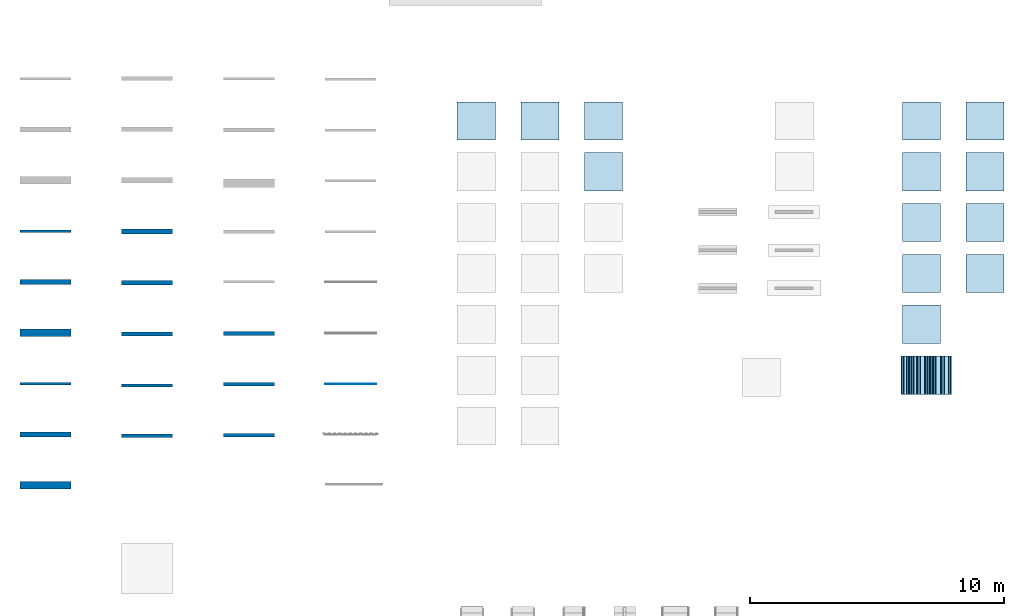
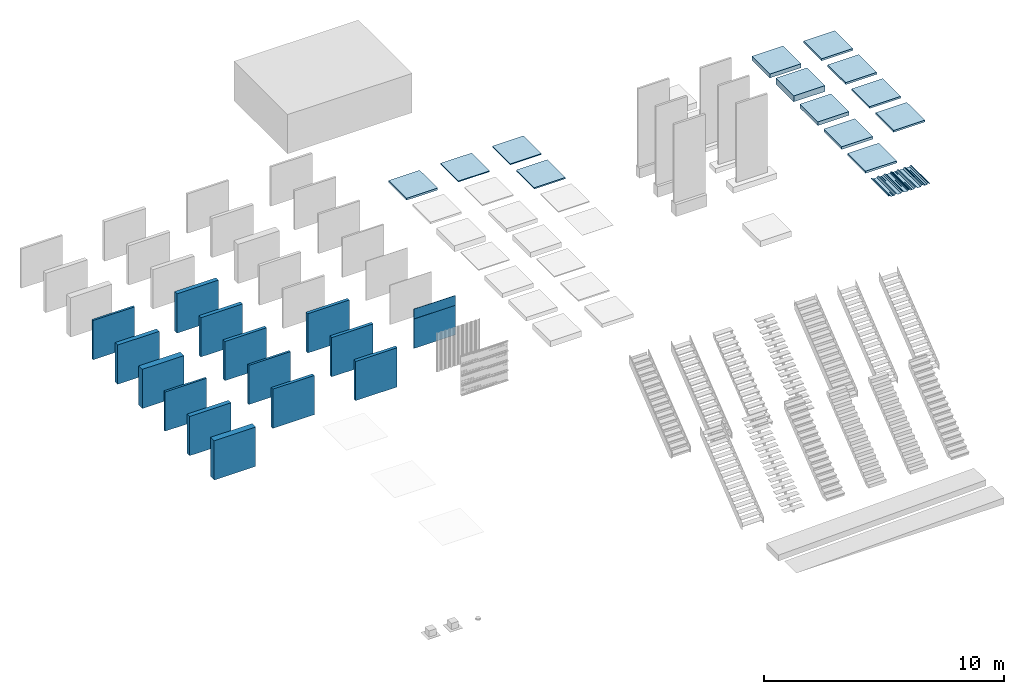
# One storey, part 4 of 14: 16 walls, 13 slabs, 2 plates, 10 elements without a shape of their own.
"""IFC2X3 building model written with IfcOpenShell, lengths in millimetres."""

from ifc_helpers import new_model, entity, si_unit, converted_unit, derived_unit, direction, frame, frame_2d, origin, origin_2d_with_axis, place, context, subcontext, project, spatial, polyline, rectangle, outline, extrude, source, transform, mapped, material, layer, layer_set, layer_usage, type_object, type_shapes, element, aggregate, save


model = new_model("IFC2X3")

# Units and contexts
model_context = context("Model", 3, precision=0.01, world=origin(), true_north=direction((6.12303176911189e-17, 1.0)))
context_of_model = context(None, 3, precision=0.01, world=origin(), true_north=direction((6.12303176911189e-17, 1.0)))
body_context = subcontext(model_context, "Body", "Model", "MODEL_VIEW")
ifc_project = project(units=[si_unit("LENGTHUNIT", "METRE", prefix="MILLI"), si_unit("AREAUNIT", "SQUARE_METRE"), si_unit("VOLUMEUNIT", "CUBIC_METRE"), converted_unit("PLANEANGLEUNIT", "DEGREE", entity("IfcRatioMeasure", 0.0174532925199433), si_unit("PLANEANGLEUNIT", "RADIAN"), dimensions=[0, 0, 0, 0, 0, 0, 0]), si_unit("MASSUNIT", "GRAM", prefix="KILO"), si_unit("TIMEUNIT", "SECOND"), si_unit("FREQUENCYUNIT", "HERTZ"), si_unit("THERMODYNAMICTEMPERATUREUNIT", "KELVIN"), derived_unit("THERMALTRANSMITTANCEUNIT", [(si_unit("MASSUNIT", "GRAM", prefix="KILO"), 1), (si_unit("THERMODYNAMICTEMPERATUREUNIT", "KELVIN"), -1), (si_unit("TIMEUNIT", "SECOND"), -3)]), derived_unit("VOLUMETRICFLOWRATEUNIT", [(si_unit("LENGTHUNIT", "METRE"), 3), (si_unit("TIMEUNIT", "SECOND"), -1)]), si_unit("ELECTRICCURRENTUNIT", "AMPERE"), si_unit("ELECTRICVOLTAGEUNIT", "VOLT"), si_unit("POWERUNIT", "WATT")], contexts=[model_context, context_of_model])

# Site, building, storey
site_placement = place(None, origin())
site = spatial("IfcSite", under=ifc_project, at=site_placement, Name="Surface", CompositionType="ELEMENT")
building_placement = place(site_placement, origin())
building = spatial("IfcBuilding", under=site, at=building_placement, CompositionType="ELEMENT")
storey_placement = place(building_placement, origin())
storey = spatial("IfcBuildingStorey", under=building, at=storey_placement, Name="00_begane grond", CompositionType="ELEMENT", Elevation=0.0)

# Roof, plates
curtain_wall_type = type_object("IfcCurtainWallType", Name="Sloped Glazing:27_CW_SAB58KD_945mm", PredefinedType="NOTDEFINED")
roof_1_placement = place(storey_placement, origin())
roof_1 = element("IfcRoof", 1, at=roof_1_placement, inside=storey, type_object=curtain_wall_type, Name="Sloped Glazing:27_CW_SAB58KD_945mm", ObjectType="Sloped Glazing:27_CW_SAB58KD_945mm:1393", ShapeType="NOTDEFINED")
plate_type_1 = type_object("IfcPlateType", Name="SAB58KD_945", PredefinedType="NOTDEFINED")
shared_shape_1 = source(origin(), body_context, "Body", "SweptSolid", [
    extrude(outline(polyline([(-41.6883369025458, -6.31626557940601), (-38.0537855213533, -6.31626557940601), (-6.51645922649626, 14.7086186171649), (-5.11855484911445, 18.063589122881), (44.5780594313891, 51.1946653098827), (119.78533029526, 31.0648525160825), (162.475119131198, 59.5247117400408), (172.819626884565, 136.689043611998), (222.51559042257, 169.819685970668), (226.150141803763, 169.819685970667), (257.68746809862, 190.844570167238), (259.085372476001, 194.199540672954), (308.781608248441, 227.330364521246), (383.988986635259, 207.200623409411), (416.028687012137, 228.560423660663), (397.342743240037, 286.371121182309), (408.300957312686, 293.676597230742), (418.90416186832, 283.514998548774), (420.28798638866, 284.958961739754), (408.526464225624, 296.23063602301), (394.974288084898, 287.195851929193), (413.660231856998, 229.385154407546), (383.632257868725, 209.366505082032), (308.424879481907, 229.496246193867), (257.472122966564, 195.527741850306), (256.074218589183, 192.17277134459), (225.544590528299, 171.819685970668), (221.910039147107, 171.819685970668), (170.95755361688, 137.851362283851), (160.613045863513, 60.6870304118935), (119.428602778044, 33.2307350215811), (44.2213319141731, 53.3605478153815), (-6.73180435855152, 19.3917903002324), (-8.12970873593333, 16.0368197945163), (-38.6593367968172, -4.31626557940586), (-42.2938881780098, -4.31626557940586), (-93.2479062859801, -38.2856109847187), (-103.592414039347, -115.449942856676), (-144.776857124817, -142.906238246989), (-219.984127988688, -122.776425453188), (-270.937264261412, -156.745182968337), (-272.335168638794, -160.100153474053), (-302.864796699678, -180.453238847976), (-306.49934808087, -180.453238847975), (-357.44939838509, -214.419939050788), (-368.151786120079, -294.22655842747), (-407.873068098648, -320.707413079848), (-423.86478432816, -316.569685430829), (-432.461053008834, -311.156883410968), (-433.526726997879, -312.849319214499), (-424.667084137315, -318.427959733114), (-407.507999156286, -322.867734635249), (-366.289758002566, -295.388907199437), (-355.587370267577, -215.582287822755), (-305.893796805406, -182.453238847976), (-302.259245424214, -182.453238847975), (-270.721919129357, -161.428354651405), (-269.324014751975, -158.073384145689), (-219.627400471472, -124.942307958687), (-144.420129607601, -145.072120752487), (-101.730340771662, -116.612261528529), (-91.3858330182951, -39.4479296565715), (-41.6883369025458, -6.31626557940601)])), frame((534.253619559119, 42.597426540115, 0.0), z_axis=(0.0, 0.0, 1.0), x_axis=(0.832050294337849, -0.55470019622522, 0.0)), (0.0, 0.0, 1.0), 1500.0),
])
type_shapes(plate_type_1, [shared_shape_1])
plate_1_placement = place(roof_1_placement, frame((34647.8084880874, -13415.0, 64.0), z_axis=(0.0, 1.0, 0.0), x_axis=(1.0, 0.0, 0.0)))
plate_1 = element("IfcPlate", 2, at=plate_1_placement, type_object=plate_type_1, Name="27_CWP_SAB58KD_945:SAB58KD_945", ObjectType="SAB58KD_945", context=body_context, shape_type="MappedRepresentation", body=[
    mapped(shared_shape_1, transform((0.0, 0.0, 0.0), scale=1.0)),
])
plate_type_2 = type_object("IfcPlateType", Name="SAB58KD_945", PredefinedType="NOTDEFINED")
shared_shape_2 = source(origin(), body_context, "Body", "SweptSolid", [
    extrude(outline(polyline([(-41.688336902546, -6.31626557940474), (-38.0537855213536, -6.31626557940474), (-6.51645922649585, 14.7086186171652), (-5.11855484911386, 18.0635891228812), (44.5780594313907, 51.1946653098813), (119.785330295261, 31.0648525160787), (162.4751191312, 59.5247117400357), (172.819626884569, 136.689043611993), (222.515590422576, 169.819685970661), (226.150141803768, 169.81968597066), (257.687468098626, 190.84457016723), (259.085372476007, 194.199540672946), (308.781608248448, 227.330364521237), (383.988986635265, 207.200623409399), (416.028687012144, 228.56042366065), (397.342743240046, 286.371121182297), (408.300957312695, 293.676597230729), (418.904161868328, 283.514998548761), (420.287986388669, 284.958961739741), (408.526464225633, 296.230636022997), (394.974288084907, 287.19585192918), (413.660231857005, 229.385154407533), (383.632257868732, 209.36650508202), (308.424879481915, 229.496246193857), (257.47212296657, 195.527741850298), (256.074218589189, 192.172771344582), (225.544590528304, 171.81968597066), (221.910039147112, 171.819685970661), (170.957553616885, 137.851362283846), (160.613045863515, 60.6870304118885), (119.428602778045, 33.2307350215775), (44.2213319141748, 53.3605478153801), (-6.73180435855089, 19.3917903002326), (-8.1297087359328, 16.0368197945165), (-38.6593367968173, -4.31626557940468), (-42.2938881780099, -4.31626557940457), (-93.2479062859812, -38.2856109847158), (-103.592414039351, -115.449942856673), (-144.776857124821, -142.906238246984), (-219.984127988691, -122.776425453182), (-270.937264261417, -156.745182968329), (-272.335168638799, -160.100153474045), (-302.864796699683, -180.453238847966), (-306.499348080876, -180.453238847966), (-357.449398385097, -214.419939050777), (-368.151786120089, -294.226558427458), (-407.873068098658, -320.707413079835), (-423.86478432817, -316.569685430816), (-432.461053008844, -311.156883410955), (-433.526726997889, -312.849319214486), (-424.667084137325, -318.427959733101), (-407.507999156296, -322.867734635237), (-366.289758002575, -295.388907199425), (-355.587370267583, -215.582287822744), (-305.893796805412, -182.453238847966), (-302.259245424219, -182.453238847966), (-270.721919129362, -161.428354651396), (-269.32401475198, -158.07338414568), (-219.627400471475, -124.94230795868), (-144.420129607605, -145.072120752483), (-101.730340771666, -116.612261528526), (-91.3858330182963, -39.4479296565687), (-41.688336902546, -6.31626557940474)])), frame((534.253619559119, 42.597426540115, 0.0), z_axis=(0.0, 0.0, 1.0), x_axis=(0.832050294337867, -0.554700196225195, 0.0)), (0.0, 0.0, 1.0), 1500.0),
])
type_shapes(plate_type_2, [shared_shape_2])
plate_2_placement = place(roof_1_placement, frame((35592.8084880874, -13415.0, 64.0), z_axis=(0.0, 1.0, 0.0), x_axis=(1.0, 0.0, 0.0)))
plate_2 = element("IfcPlate", 3, at=plate_2_placement, type_object=plate_type_2, Name="27_CWP_SAB58KD_945:SAB58KD_945", ObjectType="SAB58KD_945", context=body_context, shape_type="MappedRepresentation", body=[
    mapped(shared_shape_2, transform((0.0, 0.0, 0.0), scale=1.0)),
])
aggregate(roof_1, [plate_1, plate_2])

# Slabs
ifc_material_1 = material(Name="Default")
ifc_layer_1 = layer(ifc_material_1, 100.0)
ifc_layer_set_1 = layer_set([ifc_layer_1], Name="Floor:13_FL_generiek_100")
ifc_layer_usage_1 = layer_usage(ifc_layer_set_1, "AXIS3", "POSITIVE", 0.0)
slab_1_placement = place(storey_placement, origin())
element("IfcSlab", 4, at=slab_1_placement, inside=storey, material=ifc_layer_usage_1, Name="Floor:13_FL_generiek_100", ObjectType="Floor:13_FL_generiek_100", PredefinedType="FLOOR", context=body_context, shape_type="SweptSolid", body=[
    extrude(rectangle(XDim=1500.0, YDim=1500.0, at=frame_2d((-1.13686837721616e-13, 0.0), x_axis=(1.0, 0.0))), frame((17943.3473849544, -2665.0, 0.0), z_axis=(0.0, 0.0, -1.0), x_axis=(0.0, 1.0, 0.0)), (0.0, 0.0, 1.0), 100.0),
])
ifc_material_2 = material(Name="28_beton_prefab_C45_55")
ifc_layer_2 = layer(ifc_material_2, 50.0)
ifc_layer_set_2 = layer_set([ifc_layer_2], Name="Floor:23_FL_breedplaat_50")
ifc_layer_usage_2 = layer_usage(ifc_layer_set_2, "AXIS3", "POSITIVE", 0.0)
slab_2_placement = place(storey_placement, origin())
element("IfcSlab", 5, at=slab_2_placement, inside=storey, material=ifc_layer_usage_2, Name="Floor:23_FL_breedplaat_50", ObjectType="Floor:23_FL_breedplaat_50", PredefinedType="FLOOR", context=body_context, shape_type="SweptSolid", body=[
    extrude(rectangle(XDim=1500.0, YDim=1500.00000000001, at=frame_2d((-1.13686837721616e-13, 0.0), x_axis=(1.0, 0.0))), frame((20443.3473849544, -2665.0, 0.0), z_axis=(0.0, 0.0, -1.0), x_axis=(0.0, 1.0, 0.0)), (0.0, 0.0, 1.0), 50.0),
])
ifc_material_3 = material(Name="43_dekvloer_zandcement")
ifc_layer_3 = layer(ifc_material_3, 50.0)
ifc_layer_set_3 = layer_set([ifc_layer_3], Name="Floor:43_FL_cementdekvloer_50")
ifc_layer_usage_3 = layer_usage(ifc_layer_set_3, "AXIS3", "POSITIVE", 0.0)
slab_3_placement = place(storey_placement, origin())
element("IfcSlab", 6, at=slab_3_placement, inside=storey, material=ifc_layer_usage_3, Name="Floor:43_FL_cementdekvloer_50", ObjectType="Floor:43_FL_cementdekvloer_50", PredefinedType="FLOOR", context=body_context, shape_type="SweptSolid", body=[
    extrude(rectangle(XDim=1500.0, YDim=1500.00000000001, at=frame_2d((1.70530256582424e-13, 0.0), x_axis=(1.0, 0.0))), frame((22943.3473849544, -2665.0, 0.0), z_axis=(0.0, 0.0, -1.0), x_axis=(0.0, 1.0, 0.0)), (0.0, 0.0, 1.0), 50.0),
])
ifc_layer_4 = layer(ifc_material_3, 70.0)
ifc_layer_set_4 = layer_set([ifc_layer_4], Name="Floor:43_FL_cementdekvloer_70")
ifc_layer_usage_4 = layer_usage(ifc_layer_set_4, "AXIS3", "POSITIVE", 0.0)
slab_4_placement = place(storey_placement, origin())
element("IfcSlab", 7, at=slab_4_placement, inside=storey, material=ifc_layer_usage_4, Name="Floor:43_FL_cementdekvloer_70", ObjectType="Floor:43_FL_cementdekvloer_70", PredefinedType="FLOOR", context=body_context, shape_type="SweptSolid", body=[
    extrude(rectangle(XDim=1500.0, YDim=1500.00000000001, at=origin_2d_with_axis()), frame((22943.3473849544, -4665.0, 0.0), z_axis=(0.0, 0.0, -1.0), x_axis=(0.0, 1.0, 0.0)), (0.0, 0.0, 1.0), 70.0),
])

# Roof, slab
roof_2_placement = place(storey_placement, frame((34693.3473849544, -3415.0, 0.0)))
roof_2 = element("IfcRoof", 8, at=roof_2_placement, inside=storey, Name="Basic Roof:27_RO_generiek_200", ObjectType="Basic Roof:27_RO_generiek_200", ShapeType="NOTDEFINED")
ifc_layer_5 = layer(ifc_material_1, 200.0)
ifc_layer_set_5 = layer_set([ifc_layer_5], Name="Basic Roof:27_RO_generiek_200")
slab_5_placement = place(roof_2_placement, origin())
slab_5 = element("IfcSlab", 9, at=slab_5_placement, material=ifc_layer_set_5, Name="Basic Roof:27_RO_generiek_200", ObjectType="Basic Roof:27_RO_generiek_200", PredefinedType="ROOF", context=body_context, shape_type="SweptSolid", body=[
    extrude(rectangle(XDim=1500.0, YDim=1500.0, at=frame_2d((-2.1600499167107e-12, 0.0), x_axis=(1.0, 0.0))), frame((750.0, 750.0, 0.0)), (0.0, 0.0, 1.0), 200.0),
])
aggregate(roof_2, [slab_5])

roof_3_placement = place(storey_placement, frame((34693.3473849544, -5415.0, 0.0)))
roof_3 = element("IfcRoof", 10, at=roof_3_placement, inside=storey, Name="Basic Roof:27_RO_generiek_300", ObjectType="Basic Roof:27_RO_generiek_300", ShapeType="NOTDEFINED")
ifc_layer_6 = layer(ifc_material_1, 300.0)
ifc_layer_set_6 = layer_set([ifc_layer_6], Name="Basic Roof:27_RO_generiek_300")
slab_6_placement = place(roof_3_placement, origin())
slab_6 = element("IfcSlab", 11, at=slab_6_placement, material=ifc_layer_set_6, Name="Basic Roof:27_RO_generiek_300", ObjectType="Basic Roof:27_RO_generiek_300", PredefinedType="ROOF", context=body_context, shape_type="SweptSolid", body=[
    extrude(rectangle(XDim=1500.0, YDim=1500.0, at=frame_2d((2.1600499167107e-12, 0.0), x_axis=(1.0, 0.0))), frame((750.0, 750.0, 0.0)), (0.0, 0.0, 1.0), 300.0),
])
aggregate(roof_3, [slab_6])

roof_4_placement = place(storey_placement, frame((37193.3473849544, -3415.0, 0.0)))
roof_4 = element("IfcRoof", 12, at=roof_4_placement, inside=storey, Name="Basic Roof:47_RO_isolatie_PIR_bitumen_82_80-2", ObjectType="Basic Roof:47_RO_isolatie_PIR_bitumen_82_80-2", ShapeType="NOTDEFINED")
ifc_material_4 = material(Name="47_bitumen")
ifc_layer_7 = layer(ifc_material_4, 2.0)
ifc_material_5 = material(Name="20_isolatie_PIR")
ifc_layer_8 = layer(ifc_material_5, 100.0)
ifc_layer_set_7 = layer_set([ifc_layer_7, ifc_layer_8], Name="Basic Roof:47_RO_isolatie_PIR_bitumen_82_80-2")
slab_7_placement = place(roof_4_placement, origin())
slab_7 = element("IfcSlab", 13, at=slab_7_placement, material=ifc_layer_set_7, Name="Basic Roof:47_RO_isolatie_PIR_bitumen_82_80-2", ObjectType="Basic Roof:47_RO_isolatie_PIR_bitumen_82_80-2", PredefinedType="ROOF", context=body_context, shape_type="SweptSolid", body=[
    extrude(rectangle(XDim=1500.0, YDim=1500.0, at=frame_2d((2.1600499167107e-12, 0.0), x_axis=(1.0, 0.0))), frame((750.0, 750.0, 0.0)), (0.0, 0.0, 1.0), 102.0),
])
aggregate(roof_4, [slab_7])

roof_5_placement = place(storey_placement, frame((37193.3473849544, -5415.0, 0.0)))
roof_5 = element("IfcRoof", 14, at=roof_5_placement, inside=storey, Name="Basic Roof:47_RO_isolatie_EPS_bitumen_102_100-2", ObjectType="Basic Roof:47_RO_isolatie_EPS_bitumen_102_100-2", ShapeType="NOTDEFINED")
ifc_layer_9 = layer(ifc_material_4, 2.0)
ifc_material_6 = material(Name="20_isolatie_EPS")
ifc_layer_10 = layer(ifc_material_6, 100.0)
ifc_layer_set_8 = layer_set([ifc_layer_9, ifc_layer_10], Name="Basic Roof:47_RO_isolatie_EPS_bitumen_102_100-2")
slab_8_placement = place(roof_5_placement, origin())
slab_8 = element("IfcSlab", 15, at=slab_8_placement, material=ifc_layer_set_8, Name="Basic Roof:47_RO_isolatie_EPS_bitumen_102_100-2", ObjectType="Basic Roof:47_RO_isolatie_EPS_bitumen_102_100-2", PredefinedType="ROOF", context=body_context, shape_type="SweptSolid", body=[
    extrude(rectangle(XDim=1500.0, YDim=1500.0, at=frame_2d((-2.1600499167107e-12, 0.0), x_axis=(1.0, 0.0))), frame((750.0, 750.0, 0.0)), (0.0, 0.0, 1.0), 102.0),
])
aggregate(roof_5, [slab_8])

roof_6_placement = place(storey_placement, frame((34693.3473849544, -7415.0, 0.0)))
roof_6 = element("IfcRoof", 16, at=roof_6_placement, inside=storey, Name="Basic Roof:27_RO_hout_underlayment_189_171-18", ObjectType="Basic Roof:27_RO_hout_underlayment_189_171-18", ShapeType="NOTDEFINED")
ifc_material_7 = material(Name="27_beplating_underlayment")
ifc_layer_11 = layer(ifc_material_7, 18.0)
ifc_material_8 = material(Name="27_houten_balklaag_geventileerd")
ifc_layer_12 = layer(ifc_material_8, 171.0)
ifc_layer_set_9 = layer_set([ifc_layer_11, ifc_layer_12], Name="Basic Roof:27_RO_hout_underlayment_189_171-18")
slab_9_placement = place(roof_6_placement, origin())
slab_9 = element("IfcSlab", 17, at=slab_9_placement, material=ifc_layer_set_9, Name="Basic Roof:27_RO_hout_underlayment_189_171-18", ObjectType="Basic Roof:27_RO_hout_underlayment_189_171-18", PredefinedType="ROOF", context=body_context, shape_type="SweptSolid", body=[
    extrude(rectangle(XDim=1500.0, YDim=1500.0, at=frame_2d((-2.1600499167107e-12, 0.0), x_axis=(1.0, 0.0))), frame((750.0, 750.0, 0.0)), (0.0, 0.0, 1.0), 189.0),
])
aggregate(roof_6, [slab_9])

roof_7_placement = place(storey_placement, frame((34693.3473849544, -9415.0, 0.0)))
roof_7 = element("IfcRoof", 18, at=roof_7_placement, inside=storey, Name="Basic Roof:27_RO_dakplaat_enkelschalig_PIR_135_33-90-12", ObjectType="Basic Roof:27_RO_dakplaat_enkelschalig_PIR_135_33-90-12", ShapeType="NOTDEFINED")
ifc_material_9 = material(Name="00_lucht_spouw_dak_geventileerd")
ifc_layer_13 = layer(ifc_material_9, 33.0)
ifc_layer_14 = layer(ifc_material_5, 90.0)
ifc_material_10 = material(Name="20_beplating_MDF")
ifc_layer_15 = layer(ifc_material_10, 12.0)
ifc_layer_set_10 = layer_set([ifc_layer_13, ifc_layer_14, ifc_layer_15], Name="Basic Roof:27_RO_dakplaat_enkelschalig_PIR_135_33-90-12")
slab_10_placement = place(roof_7_placement, origin())
slab_10 = element("IfcSlab", 19, at=slab_10_placement, material=ifc_layer_set_10, Name="Basic Roof:27_RO_dakplaat_enkelschalig_PIR_135_33-90-12", ObjectType="Basic Roof:27_RO_dakplaat_enkelschalig_PIR_135_33-90-12", PredefinedType="ROOF", context=body_context, shape_type="SweptSolid", body=[
    extrude(rectangle(XDim=1500.0, YDim=1500.0, at=frame_2d((2.1600499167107e-12, 0.0), x_axis=(1.0, 0.0))), frame((750.0, 750.0, 0.0)), (0.0, 0.0, 1.0), 135.0),
])
aggregate(roof_7, [slab_10])

roof_8_placement = place(storey_placement, frame((37193.3473849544, -7415.0, 0.0)))
roof_8 = element("IfcRoof", 20, at=roof_8_placement, inside=storey, Name="Basic Roof:47_RO_dakpan_grijs_300x300", ObjectType="Basic Roof:47_RO_dakpan_grijs_300x300", ShapeType="NOTDEFINED")
ifc_material_11 = material(Name="47_dakpan_grijs")
ifc_layer_16 = layer(ifc_material_11, 70.0)
ifc_material_12 = material(Name="47_panlat_geventileerd")
ifc_layer_17 = layer(ifc_material_12, 22.0)
ifc_layer_set_11 = layer_set([ifc_layer_16, ifc_layer_17], Name="Basic Roof:47_RO_dakpan_grijs_300x300")
slab_11_placement = place(roof_8_placement, origin())
slab_11 = element("IfcSlab", 21, at=slab_11_placement, material=ifc_layer_set_11, Name="Basic Roof:47_RO_dakpan_grijs_300x300", ObjectType="Basic Roof:47_RO_dakpan_grijs_300x300", PredefinedType="ROOF", context=body_context, shape_type="SweptSolid", body=[
    extrude(rectangle(XDim=1500.0, YDim=1500.0, at=frame_2d((2.1600499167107e-12, 5.11590769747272e-13), x_axis=(1.0, 0.0))), frame((750.0, 750.0, 0.0)), (0.0, 0.0, 1.0), 92.0),
])
aggregate(roof_8, [slab_11])

roof_9_placement = place(storey_placement, frame((37193.3473849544, -9415.0, 0.0)))
roof_9 = element("IfcRoof", 22, at=roof_9_placement, inside=storey, Name="Basic Roof:47_RO_dakpan_rood_300x300", ObjectType="Basic Roof:47_RO_dakpan_rood_300x300", ShapeType="NOTDEFINED")
ifc_material_13 = material(Name="47_dakpan_rood")
ifc_layer_18 = layer(ifc_material_13, 70.0)
ifc_layer_19 = layer(ifc_material_12, 22.0)
ifc_layer_set_12 = layer_set([ifc_layer_18, ifc_layer_19], Name="Basic Roof:47_RO_dakpan_rood_300x300")
slab_12_placement = place(roof_9_placement, origin())
slab_12 = element("IfcSlab", 23, at=slab_12_placement, material=ifc_layer_set_12, Name="Basic Roof:47_RO_dakpan_rood_300x300", ObjectType="Basic Roof:47_RO_dakpan_rood_300x300", PredefinedType="ROOF", context=body_context, shape_type="SweptSolid", body=[
    extrude(rectangle(XDim=1500.0, YDim=1500.0, at=frame_2d((-2.1600499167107e-12, 5.11590769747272e-13), x_axis=(1.0, 0.0))), frame((750.0, 750.0, 0.0)), (0.0, 0.0, 1.0), 92.0),
])
aggregate(roof_9, [slab_12])

roof_10_placement = place(storey_placement, frame((34693.3473849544, -11415.0, 0.0)))
roof_10 = element("IfcRoof", 24, at=roof_10_placement, inside=storey, Name="Basic Roof:27_RO_dakplaat_sandwich_PIR_106_20-3-80-3", ObjectType="Basic Roof:27_RO_dakplaat_sandwich_PIR_106_20-3-80-3", ShapeType="NOTDEFINED")
ifc_material_14 = material(Name="27_tengels_geventileerd")
ifc_layer_20 = layer(ifc_material_14, 20.0)
ifc_layer_21 = layer(ifc_material_10, 3.0)
ifc_layer_22 = layer(ifc_material_5, 80.0)
ifc_layer_23 = layer(ifc_material_10, 3.0)
ifc_layer_set_13 = layer_set([ifc_layer_20, ifc_layer_21, ifc_layer_22, ifc_layer_23], Name="Basic Roof:27_RO_dakplaat_sandwich_PIR_106_20-3-80-3")
slab_13_placement = place(roof_10_placement, origin())
slab_13 = element("IfcSlab", 25, at=slab_13_placement, material=ifc_layer_set_13, Name="Basic Roof:27_RO_dakplaat_sandwich_PIR_106_20-3-80-3", ObjectType="Basic Roof:27_RO_dakplaat_sandwich_PIR_106_20-3-80-3", PredefinedType="ROOF", context=body_context, shape_type="SweptSolid", body=[
    extrude(rectangle(XDim=1500.0, YDim=1500.0, at=frame_2d((-2.1600499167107e-12, 0.0), x_axis=(1.0, 0.0))), frame((750.0, 750.0, 0.0)), (0.0, 0.0, 1.0), 106.0),
])
aggregate(roof_10, [slab_13])

# Walls
ifc_material_15 = material(Name="20_baksteen_wf_210x100x50_10mm_voeg_halfsteens_rood_genuanceerd")
ifc_layer_24 = layer(ifc_material_15, 100.0)
ifc_layer_set_14 = layer_set([ifc_layer_24], Name="Basic Wall:21_WA_mw_100")
ifc_layer_usage_5 = layer_usage(ifc_layer_set_14, "AXIS2", "NEGATIVE", 50.0)
wall_type_1 = type_object("IfcWallType", Name="Basic Wall:21_WA_mw_100", PredefinedType="STANDARD", material=ifc_layer_set_14)
wall_1_placement = place(storey_placement, frame((0.0, -13000.0, 0.0)))
element("IfcWallStandardCase", 26, at=wall_1_placement, inside=storey, type_object=wall_type_1, material=ifc_layer_usage_5, Name="Basic Wall:21_WA_mw_100", ObjectType="Basic Wall:21_WA_mw_100", context=body_context, shape_type="SweptSolid", body=[
    extrude(rectangle(XDim=2000.0, YDim=99.9999999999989, at=frame_2d((1000.0, 5.32907051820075e-13), x_axis=(-1.0, 0.0))), origin(), (0.0, 0.0, 1.0), 2000.0),
])
ifc_layer_25 = layer(ifc_material_15, 210.0)
ifc_layer_set_15 = layer_set([ifc_layer_25], Name="Basic Wall:21_WA_mw_210")
ifc_layer_usage_6 = layer_usage(ifc_layer_set_15, "AXIS2", "NEGATIVE", 105.0)
wall_type_2 = type_object("IfcWallType", Name="Basic Wall:21_WA_mw_210", PredefinedType="STANDARD", material=ifc_layer_set_15)
wall_2_placement = place(storey_placement, frame((0.0, -15000.0, 0.0)))
element("IfcWallStandardCase", 27, at=wall_2_placement, inside=storey, type_object=wall_type_2, material=ifc_layer_usage_6, Name="Basic Wall:21_WA_mw_210", ObjectType="Basic Wall:21_WA_mw_210", context=body_context, shape_type="SweptSolid", body=[
    extrude(rectangle(XDim=2000.0, YDim=210.0, at=frame_2d((1000.0, 5.32907051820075e-13), x_axis=(-1.0, 0.0))), origin(), (0.0, 0.0, 1.0), 2000.0),
])
ifc_layer_26 = layer(ifc_material_15, 100.0)
ifc_material_16 = material(Name="00_lucht_spouw_muur_geventileerd")
ifc_layer_27 = layer(ifc_material_16, 100.0)
ifc_layer_28 = layer(ifc_material_15, 100.0)
ifc_layer_set_16 = layer_set([ifc_layer_26, ifc_layer_27, ifc_layer_28], Name="Basic Wall:21_WA_mw_spouw_mw_300_100-100-100")
ifc_layer_usage_7 = layer_usage(ifc_layer_set_16, "AXIS2", "NEGATIVE", 150.0)
wall_type_3 = type_object("IfcWallType", Name="Basic Wall:21_WA_mw_spouw_mw_300_100-100-100", PredefinedType="STANDARD", material=ifc_layer_set_16)
wall_3_placement = place(storey_placement, frame((0.0, -17000.0, 0.0)))
element("IfcWallStandardCase", 28, at=wall_3_placement, inside=storey, type_object=wall_type_3, material=ifc_layer_usage_7, Name="Basic Wall:21_WA_mw_spouw_mw_300_100-100-100", ObjectType="Basic Wall:21_WA_mw_spouw_mw_300_100-100-100", context=body_context, shape_type="SweptSolid", body=[
    extrude(rectangle(XDim=2000.0, YDim=300.000000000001, at=frame_2d((1000.0, 5.40012479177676e-13), x_axis=(-1.0, 0.0))), origin(), (0.0, 0.0, 1.0), 2000.0),
])
ifc_material_17 = material(Name="00_baksteen_bestaand")
ifc_layer_29 = layer(ifc_material_17, 100.0)
ifc_layer_set_17 = layer_set([ifc_layer_29], Name="Basic Wall:21_WA_mw-bestaand_100")
ifc_layer_usage_8 = layer_usage(ifc_layer_set_17, "AXIS2", "NEGATIVE", 50.0)
wall_type_4 = type_object("IfcWallType", Name="Basic Wall:21_WA_mw-bestaand_100", PredefinedType="STANDARD", material=ifc_layer_set_17)
wall_4_placement = place(storey_placement, frame((0.0, -7000.0, 0.0)))
element("IfcWallStandardCase", 29, at=wall_4_placement, inside=storey, type_object=wall_type_4, material=ifc_layer_usage_8, Name="Basic Wall:21_WA_mw-bestaand_100", ObjectType="Basic Wall:21_WA_mw-bestaand_100", context=body_context, shape_type="SweptSolid", body=[
    extrude(rectangle(XDim=2000.0, YDim=99.9999999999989, at=frame_2d((1000.0, -7.105427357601e-15), x_axis=(-1.0, 0.0))), origin(), (0.0, 0.0, 1.0), 2000.0),
])
ifc_layer_30 = layer(ifc_material_17, 210.0)
ifc_layer_set_18 = layer_set([ifc_layer_30], Name="Basic Wall:21_WA_mw_bestaand_210")
ifc_layer_usage_9 = layer_usage(ifc_layer_set_18, "AXIS2", "NEGATIVE", 105.0)
wall_type_5 = type_object("IfcWallType", Name="Basic Wall:21_WA_mw_bestaand_210", PredefinedType="STANDARD", material=ifc_layer_set_18)
wall_5_placement = place(storey_placement, frame((0.0, -9000.0, 0.0)))
element("IfcWallStandardCase", 30, at=wall_5_placement, inside=storey, type_object=wall_type_5, material=ifc_layer_usage_9, Name="Basic Wall:21_WA_mw_bestaand_210", ObjectType="Basic Wall:21_WA_mw_bestaand_210", context=body_context, shape_type="SweptSolid", body=[
    extrude(rectangle(XDim=2000.0, YDim=210.0, at=frame_2d((1000.0, -1.4210854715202e-14), x_axis=(-1.0, 0.0))), origin(), (0.0, 0.0, 1.0), 2000.0),
])
ifc_layer_31 = layer(ifc_material_17, 100.0)
ifc_layer_32 = layer(ifc_material_16, 100.0)
ifc_layer_33 = layer(ifc_material_17, 100.0)
ifc_layer_set_19 = layer_set([ifc_layer_31, ifc_layer_32, ifc_layer_33], Name="Basic Wall:21_WA_mw-bestaand_spouw_mw-bestaand_300_100-100-100")
ifc_layer_usage_10 = layer_usage(ifc_layer_set_19, "AXIS2", "NEGATIVE", 150.0)
wall_type_6 = type_object("IfcWallType", Name="Basic Wall:21_WA_mw-bestaand_spouw_mw-bestaand_300_100-100-100", PredefinedType="STANDARD", material=ifc_layer_set_19)
wall_6_placement = place(storey_placement, frame((0.0, -11000.0, 0.0)))
element("IfcWallStandardCase", 31, at=wall_6_placement, inside=storey, type_object=wall_type_6, material=ifc_layer_usage_10, Name="Basic Wall:21_WA_mw-bestaand_spouw_mw-bestaand_300_100-100-100", ObjectType="Basic Wall:21_WA_mw-bestaand_spouw_mw-bestaand_300_100-100-100", context=body_context, shape_type="SweptSolid", body=[
    extrude(rectangle(XDim=2000.0, YDim=300.000000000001, at=frame_2d((1000.0, 5.40012479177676e-13), x_axis=(-1.0, 0.0))), origin(), (0.0, 0.0, 1.0), 2000.0),
])
ifc_layer_34 = layer(ifc_material_15, 100.0)
ifc_layer_35 = layer(ifc_material_16, 30.0)
ifc_material_18 = material(Name="20_isolatie_steenwol")
ifc_layer_36 = layer(ifc_material_18, 70.0)
ifc_layer_set_20 = layer_set([ifc_layer_34, ifc_layer_35, ifc_layer_36], Name="Basic Wall:21_WA_mw_spouw_iso-sw_200_100-30-70")
ifc_layer_usage_11 = layer_usage(ifc_layer_set_20, "AXIS2", "NEGATIVE", 100.0)
wall_type_7 = type_object("IfcWallType", Name="Basic Wall:21_WA_mw_spouw_iso-sw_200_100-30-70", PredefinedType="STANDARD", material=ifc_layer_set_20)
wall_7_placement = place(storey_placement, frame((4000.0, -7020.0, 0.0)))
element("IfcWallStandardCase", 32, at=wall_7_placement, inside=storey, type_object=wall_type_7, material=ifc_layer_usage_11, Name="Basic Wall:21_WA_mw_spouw_iso-sw_200_100-30-70", ObjectType="Basic Wall:21_WA_mw_spouw_iso-sw_200_100-30-70", context=body_context, shape_type="SweptSolid", body=[
    extrude(rectangle(XDim=2000.0, YDim=200.0, at=frame_2d((1000.0, -7.105427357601e-15), x_axis=(-1.0, 0.0))), origin(), (0.0, 0.0, 1.0), 2000.0),
])
ifc_material_19 = material(Name="41_hout_hardhout_geveldelen_donkerblauw_horizontaal")
ifc_layer_37 = layer(ifc_material_19, 20.0)
ifc_material_20 = material(Name="40_regelwerk_geventileerd")
ifc_layer_38 = layer(ifc_material_20, 30.0)
ifc_layer_39 = layer(ifc_material_20, 10.0)
ifc_layer_40 = layer(ifc_material_18, 120.0)
ifc_layer_set_21 = layer_set([ifc_layer_37, ifc_layer_38, ifc_layer_39, ifc_layer_40], Name="Basic Wall:21_WA_hout-wrc-hor_rachel_tengel_iso-sw_180_20-30-10-120")
ifc_layer_usage_12 = layer_usage(ifc_layer_set_21, "AXIS2", "NEGATIVE", 90.0)
wall_type_8 = type_object("IfcWallType", Name="Basic Wall:21_WA_hout-wrc-hor_rachel_tengel_iso-sw_180_20-30-10-120", PredefinedType="STANDARD", material=ifc_layer_set_21)
wall_8_placement = place(storey_placement, frame((4000.0, -9030.0, 0.0)))
element("IfcWallStandardCase", 33, at=wall_8_placement, inside=storey, type_object=wall_type_8, material=ifc_layer_usage_12, Name="Basic Wall:21_WA_hout-wrc-hor_rachel_tengel_iso-sw_180_20-30-10-120", ObjectType="Basic Wall:21_WA_hout-wrc-hor_rachel_tengel_iso-sw_180_20-30-10-120", context=body_context, shape_type="SweptSolid", body=[
    extrude(rectangle(XDim=2000.0, YDim=180.0, at=frame_2d((1000.0, -7.105427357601e-15), x_axis=(-1.0, 0.0))), origin(), (0.0, 0.0, 1.0), 2000.0),
])
ifc_material_21 = material(Name="40_stucwerk_exterieur_grof_wit")
ifc_layer_41 = layer(ifc_material_21, 30.0)
ifc_layer_42 = layer(ifc_material_6, 120.0)
ifc_layer_set_22 = layer_set([ifc_layer_41, ifc_layer_42], Name="Basic Wall:21_WA_stucwerk_iso-eps_150_30-120")
ifc_layer_usage_13 = layer_usage(ifc_layer_set_22, "AXIS2", "NEGATIVE", 75.0)
wall_type_9 = type_object("IfcWallType", Name="Basic Wall:21_WA_stucwerk_iso-eps_150_30-120", PredefinedType="STANDARD", material=ifc_layer_set_22)
wall_9_placement = place(storey_placement, frame((4000.0, -11045.0, 0.0)))
element("IfcWallStandardCase", 34, at=wall_9_placement, inside=storey, type_object=wall_type_9, material=ifc_layer_usage_13, Name="Basic Wall:21_WA_stucwerk_iso-eps_150_30-120", ObjectType="Basic Wall:21_WA_stucwerk_iso-eps_150_30-120", context=body_context, shape_type="SweptSolid", body=[
    extrude(rectangle(XDim=2000.0, YDim=150.000000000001, at=frame_2d((1000.0, 5.32907051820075e-13), x_axis=(-1.0, 0.0))), origin(), (0.0, 0.0, 1.0), 2000.0),
])
ifc_material_22 = material(Name="41_staal_geanodizeerd_wit")
ifc_layer_43 = layer(ifc_material_22, 1.6)
ifc_layer_44 = layer(ifc_material_5, 96.8)
ifc_layer_45 = layer(ifc_material_22, 1.6)
ifc_layer_set_23 = layer_set([ifc_layer_43, ifc_layer_44, ifc_layer_45], Name="Basic Wall:21_WA_sandwichpaneel_100x1000")
ifc_layer_usage_14 = layer_usage(ifc_layer_set_23, "AXIS2", "NEGATIVE", 50.0)
wall_type_10 = type_object("IfcWallType", Name="Basic Wall:21_WA_sandwichpaneel_100x1000", PredefinedType="STANDARD", material=ifc_layer_set_23)
wall_10_placement = place(storey_placement, frame((4000.0, -13070.0, 0.0)))
element("IfcWallStandardCase", 35, at=wall_10_placement, inside=storey, type_object=wall_type_10, material=ifc_layer_usage_14, Name="Basic Wall:21_WA_sandwichpaneel_100x1000", ObjectType="Basic Wall:21_WA_sandwichpaneel_100x1000", context=body_context, shape_type="SweptSolid", body=[
    extrude(rectangle(XDim=2000.0, YDim=99.9999999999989, at=frame_2d((1000.0, 5.32907051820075e-13), x_axis=(-1.0, 0.0))), origin(), (0.0, 0.0, 1.0), 2000.0),
])
ifc_layer_46 = layer(ifc_material_2, 150.0)
ifc_layer_set_24 = layer_set([ifc_layer_46], Name="Basic Wall:28_WA_prefabb_C45_150")
ifc_layer_usage_15 = layer_usage(ifc_layer_set_24, "AXIS2", "NEGATIVE", 75.0)
wall_type_11 = type_object("IfcWallType", Name="Basic Wall:28_WA_prefabb_C45_150", PredefinedType="STANDARD", material=ifc_layer_set_24)
wall_11_placement = place(storey_placement, frame((8000.0, -13025.0, 0.0)))
element("IfcWallStandardCase", 36, at=wall_11_placement, inside=storey, type_object=wall_type_11, material=ifc_layer_usage_15, Name="Basic Wall:28_WA_prefabb_C45_150", ObjectType="Basic Wall:28_WA_prefabb_C45_150", context=body_context, shape_type="SweptSolid", body=[
    extrude(rectangle(XDim=2000.0, YDim=150.000000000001, at=frame_2d((1000.0, 5.32907051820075e-13), x_axis=(-1.0, 0.0))), origin(), (0.0, 0.0, 1.0), 2000.0),
])
ifc_material_23 = material(Name="40_stucwerk_interieur_fijn_wit")
ifc_layer_47 = layer(ifc_material_23, 20.0)
ifc_layer_set_25 = layer_set([ifc_layer_47], Name="Basic Wall:42_WA_stucwerk_20")
ifc_layer_usage_16 = layer_usage(ifc_layer_set_25, "AXIS2", "NEGATIVE", 10.0)
wall_type_12 = type_object("IfcWallType", Name="Basic Wall:42_WA_stucwerk_20", PredefinedType="STANDARD", material=ifc_layer_set_25)
wall_12_placement = place(storey_placement, frame((12000.0, -13012.5, 1500.0)))
element("IfcWallStandardCase", 37, at=wall_12_placement, inside=storey, type_object=wall_type_12, material=ifc_layer_usage_16, Name="Basic Wall:42_WA_stucwerk_20", ObjectType="Basic Wall:42_WA_stucwerk_20", context=body_context, shape_type="SweptSolid", body=[
    extrude(rectangle(XDim=2000.0, YDim=19.9999999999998, at=frame_2d((1000.0, 5.32907051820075e-13), x_axis=(-1.0, 0.0))), origin(), (0.0, 0.0, 1.0), 500.0),
])
ifc_material_24 = material(Name="40_tegels_keramisch_150x150mm_wit")
ifc_layer_48 = layer(ifc_material_24, 10.0)
ifc_material_25 = material(Name="00_zandcement")
ifc_layer_49 = layer(ifc_material_25, 20.0)
ifc_layer_set_26 = layer_set([ifc_layer_48, ifc_layer_49], Name="Basic Wall:42_WA_tegelwerk_150x150x10mm_op cementmortel_wit")
ifc_layer_usage_17 = layer_usage(ifc_layer_set_26, "AXIS2", "NEGATIVE", 15.0)
wall_type_13 = type_object("IfcWallType", Name="Basic Wall:42_WA_tegelwerk_150x150x10mm_op cementmortel_wit", PredefinedType="STANDARD", material=ifc_layer_set_26)
wall_13_placement = place(storey_placement, frame((12000.0, -13012.5, 0.0)))
element("IfcWallStandardCase", 38, at=wall_13_placement, inside=storey, type_object=wall_type_13, material=ifc_layer_usage_17, Name="Basic Wall:42_WA_tegelwerk_150x150x10mm_op cementmortel_wit", ObjectType="Basic Wall:42_WA_tegelwerk_150x150x10mm_op cementmortel_wit", context=body_context, shape_type="SweptSolid", body=[
    extrude(rectangle(XDim=2000.0, YDim=30.0000000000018, at=frame_2d((1000.0, 5.32907051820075e-13), x_axis=(-1.0, 0.0))), origin(), (0.0, 0.0, 1.0), 1500.0),
])
ifc_layer_50 = layer(ifc_material_16, 40.0)
ifc_layer_51 = layer(ifc_material_18, 100.0)
ifc_layer_set_27 = layer_set([ifc_layer_50, ifc_layer_51], Name="Basic Wall:21_WA_spouw_iso-sw_140_40-100")
ifc_layer_usage_18 = layer_usage(ifc_layer_set_27, "AXIS2", "NEGATIVE", 70.0)
wall_type_14 = type_object("IfcWallType", Name="Basic Wall:21_WA_spouw_iso-sw_140_40-100", PredefinedType="STANDARD", material=ifc_layer_set_27)
wall_14_placement = place(storey_placement, frame((4000.0, -15050.0, 0.0)))
element("IfcWallStandardCase", 39, at=wall_14_placement, inside=storey, type_object=wall_type_14, material=ifc_layer_usage_18, Name="Basic Wall:21_WA_spouw_iso-sw_140_40-100", ObjectType="Basic Wall:21_WA_spouw_iso-sw_140_40-100", context=body_context, shape_type="SweptSolid", body=[
    extrude(rectangle(XDim=2000.0, YDim=139.999999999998, at=frame_2d((1000.0, 5.32907051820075e-13), x_axis=(-1.0, 0.0))), origin(), (0.0, 0.0, 1.0), 2000.0),
])
ifc_material_26 = material(Name="28_beton_ihwg_C25_30")
ifc_layer_52 = layer(ifc_material_26, 150.0)
ifc_layer_set_28 = layer_set([ifc_layer_52], Name="Basic Wall:28_WA_ihwgb_C25_150")
ifc_layer_usage_19 = layer_usage(ifc_layer_set_28, "AXIS2", "NEGATIVE", 75.0)
wall_type_15 = type_object("IfcWallType", Name="Basic Wall:28_WA_ihwgb_C25_150", PredefinedType="STANDARD", material=ifc_layer_set_28)
wall_15_placement = place(storey_placement, frame((8000.0, -15025.0, 0.0)))
element("IfcWallStandardCase", 40, at=wall_15_placement, inside=storey, type_object=wall_type_15, material=ifc_layer_usage_19, Name="Basic Wall:28_WA_ihwgb_C25_150", ObjectType="Basic Wall:28_WA_ihwgb_C25_150", context=body_context, shape_type="SweptSolid", body=[
    extrude(rectangle(XDim=2000.0, YDim=150.000000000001, at=frame_2d((1000.0, 5.32907051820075e-13), x_axis=(-1.0, 0.0))), origin(), (0.0, 0.0, 1.0), 2000.0),
])
ifc_material_27 = material(Name="28_cellenbeton_G4/600")
ifc_layer_53 = layer(ifc_material_27, 150.0)
ifc_layer_set_29 = layer_set([ifc_layer_53], Name="Basic Wall:28_WA_cb_G4/600_150")
ifc_layer_usage_20 = layer_usage(ifc_layer_set_29, "AXIS2", "NEGATIVE", 75.0)
wall_type_16 = type_object("IfcWallType", Name="Basic Wall:28_WA_cb_G4/600_150", PredefinedType="STANDARD", material=ifc_layer_set_29)
wall_16_placement = place(storey_placement, frame((8000.0, -11025.0, 0.0)))
element("IfcWallStandardCase", 41, at=wall_16_placement, inside=storey, type_object=wall_type_16, material=ifc_layer_usage_20, Name="Basic Wall:28_WA_cb_G4/600_150", ObjectType="Basic Wall:28_WA_cb_G4/600_150", context=body_context, shape_type="SweptSolid", body=[
    extrude(rectangle(XDim=2000.0, YDim=150.000000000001, at=frame_2d((1000.0, 5.32907051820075e-13), x_axis=(-1.0, 0.0))), origin(), (0.0, 0.0, 1.0), 2000.0),
])

save(model, "model.ifc")
